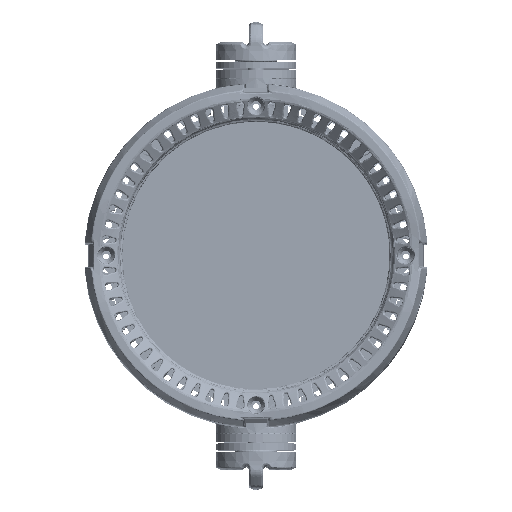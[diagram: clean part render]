
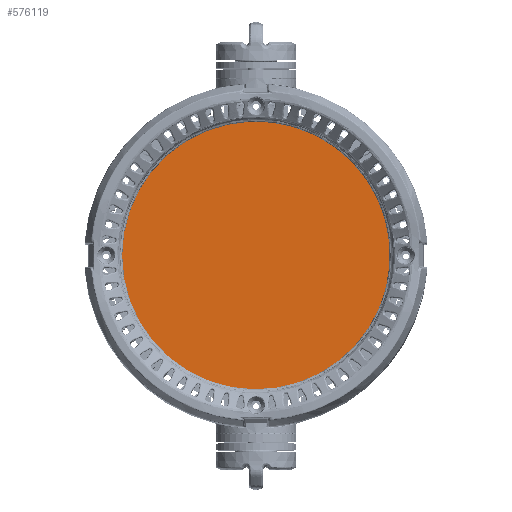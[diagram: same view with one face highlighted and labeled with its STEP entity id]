
A CAD part, top view. The second image highlights one B-rep face of the part: STEP entity #576119.
In plain terms, the highlighted planar face has unit normal (0, 0, 1).
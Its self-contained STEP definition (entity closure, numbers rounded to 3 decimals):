
#576103=CARTESIAN_POINT('',(0.,0.,114.3));
#576104=DIRECTION('',(0.,0.,1.));
#576105=DIRECTION('',(1.,0.,0.));
#576106=AXIS2_PLACEMENT_3D('',#576103,#576104,#576105);
#576107=PLANE('',#576106);
#576108=CARTESIAN_POINT('',(52.4,-0.,114.3));
#576109=VERTEX_POINT('',#576108);
#576110=CARTESIAN_POINT('',(0.,0.,114.3));
#576111=DIRECTION('',(-0.,-0.,-1.));
#576112=DIRECTION('',(1.,0.,-0.));
#576113=AXIS2_PLACEMENT_3D('',#576110,#576111,#576112);
#576114=CIRCLE('',#576113,52.4);
#576115=EDGE_CURVE('',#576109,#576109,#576114,.T.);
#576116=ORIENTED_EDGE('',*,*,#576115,.F.);
#576117=EDGE_LOOP('',(#576116));
#576118=FACE_BOUND('',#576117,.T.);
#576119=ADVANCED_FACE('',(#576118),#576107,.T.);
